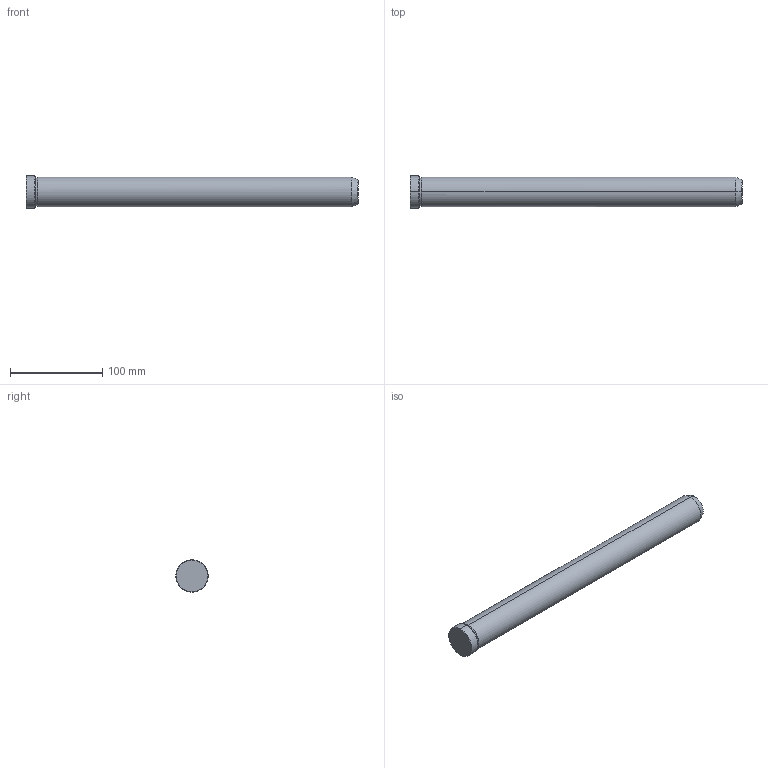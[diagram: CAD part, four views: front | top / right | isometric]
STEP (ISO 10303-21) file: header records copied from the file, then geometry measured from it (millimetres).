
FILE_DESCRIPTION(('CATIA V5 STEP Exchange'),'2;1');
FILE_NAME('C:\Users\Utente\Desktop\IO LAVORO\3D X SITO CF\X SITO\PLASTICA\549\549-32X360.stp','2021-12-18T08:10:19+00:00',('none'),('none'),'CATIA Version 5 Release 20 GA (IN-10)','CATIA V5 STEP AP203','none');
FILE_SCHEMA(('CONFIG_CONTROL_DESIGN'));
Length unit declared in the file: millimetre
Products named in the file (1): 549-32X360
Bounding box: 360 x 35 x 35 mm (x, y, z)
Volume: 290034.4 mm3; surface area: 37941.2 mm2
Topology: 1 solids, 1 shells, 19 faces, 56 edges, 40 vertices
Faces by surface type: cone 8, cylinder 6, plane 3, torus 2
Entity records: 736 total; most frequent: CARTESIAN_POINT 192, ORIENTED_EDGE 112, DIRECTION 86, EDGE_CURVE 56, AXIS2_PLACEMENT_3D 54, VERTEX_POINT 40, CIRCLE 34, EDGE_LOOP 20
